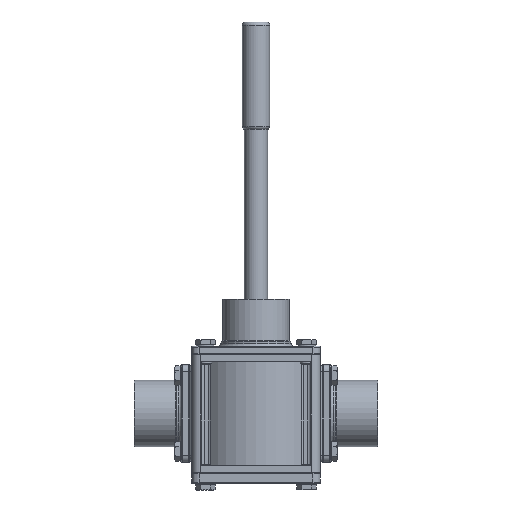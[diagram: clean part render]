
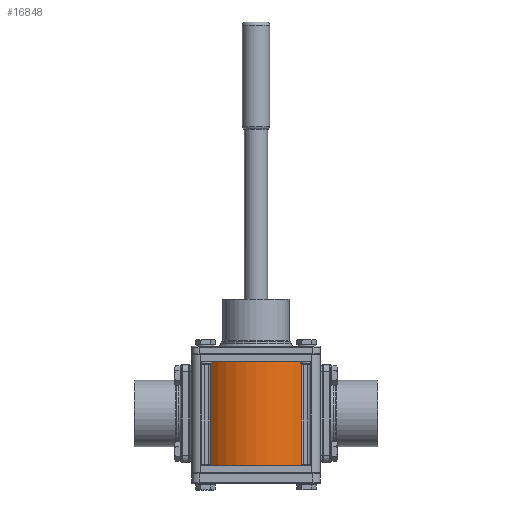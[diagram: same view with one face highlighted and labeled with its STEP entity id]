
A CAD part, front view. The second image highlights one B-rep face of the part: STEP entity #16848.
In plain terms, the highlighted cylindrical face has radius 59 mm (diameter 118 mm), a partial arc.
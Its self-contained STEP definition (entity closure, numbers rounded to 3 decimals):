
#447 = DIRECTION ( 'NONE',  ( 1., 0., 0. ) ) ;
#1402 = ORIENTED_EDGE ( 'NONE', *, *, #11078, .F. ) ;
#2092 = DIRECTION ( 'NONE',  ( 0., 0., 1. ) ) ;
#2623 = VERTEX_POINT ( 'NONE', #20210 ) ;
#4772 = EDGE_CURVE ( 'NONE', #21810, #25558, #25691, .T. ) ;
#6160 = AXIS2_PLACEMENT_3D ( 'NONE', #25156, #2092, #33435 ) ;
#6595 = DIRECTION ( 'NONE',  ( 0., 0., 1. ) ) ;
#7633 = ORIENTED_EDGE ( 'NONE', *, *, #4772, .F. ) ;
#9051 = DIRECTION ( 'NONE',  ( 0., 0., -1. ) ) ;
#10260 = ORIENTED_EDGE ( 'NONE', *, *, #28381, .T. ) ;
#11078 = EDGE_CURVE ( 'NONE', #25558, #2623, #35782, .T. ) ;
#11460 = CIRCLE ( 'NONE', #24532, 59. ) ;
#12036 = EDGE_CURVE ( 'NONE', #21810, #17608, #19826, .T. ) ;
#12317 = CARTESIAN_POINT ( 'NONE',  ( 43.4, -39.968, -49. ) ) ;
#14170 = DIRECTION ( 'NONE',  ( 0., 0., 1. ) ) ;
#14755 = CARTESIAN_POINT ( 'NONE',  ( 0., 0., -49. ) ) ;
#16848 = ADVANCED_FACE ( 'NONE', ( #21340 ), #36351, .T. ) ;
#17608 = VERTEX_POINT ( 'NONE', #22830 ) ;
#19826 = LINE ( 'NONE', #23590, #21627 ) ;
#19898 = VECTOR ( 'NONE', #14170, 1000. ) ;
#20210 = CARTESIAN_POINT ( 'NONE',  ( -43.4, -39.968, 49. ) ) ;
#21340 = FACE_OUTER_BOUND ( 'NONE', #26977, .T. ) ;
#21627 = VECTOR ( 'NONE', #6595, 1000. ) ;
#21810 = VERTEX_POINT ( 'NONE', #12317 ) ;
#21899 = ORIENTED_EDGE ( 'NONE', *, *, #12036, .T. ) ;
#22830 = CARTESIAN_POINT ( 'NONE',  ( 43.4, -39.968, 49. ) ) ;
#23590 = CARTESIAN_POINT ( 'NONE',  ( 43.4, -39.968, -49. ) ) ;
#24532 = AXIS2_PLACEMENT_3D ( 'NONE', #31772, #31266, #37125 ) ;
#25156 = CARTESIAN_POINT ( 'NONE',  ( 0., 0., -49. ) ) ;
#25558 = VERTEX_POINT ( 'NONE', #36604 ) ;
#25691 = CIRCLE ( 'NONE', #29818, 59. ) ;
#26977 = EDGE_LOOP ( 'NONE', ( #10260, #1402, #7633, #21899 ) ) ;
#28381 = EDGE_CURVE ( 'NONE', #17608, #2623, #11460, .T. ) ;
#28637 = CARTESIAN_POINT ( 'NONE',  ( -43.4, -39.968, -49. ) ) ;
#29818 = AXIS2_PLACEMENT_3D ( 'NONE', #14755, #9051, #447 ) ;
#31266 = DIRECTION ( 'NONE',  ( 0., 0., -1. ) ) ;
#31772 = CARTESIAN_POINT ( 'NONE',  ( 0., 0., 49. ) ) ;
#33435 = DIRECTION ( 'NONE',  ( 1., 0., 0. ) ) ;
#35782 = LINE ( 'NONE', #28637, #19898 ) ;
#36351 = CYLINDRICAL_SURFACE ( 'NONE', #6160, 59. ) ;
#36604 = CARTESIAN_POINT ( 'NONE',  ( -43.4, -39.968, -49. ) ) ;
#37125 = DIRECTION ( 'NONE',  ( 1., 0., 0. ) ) ;
